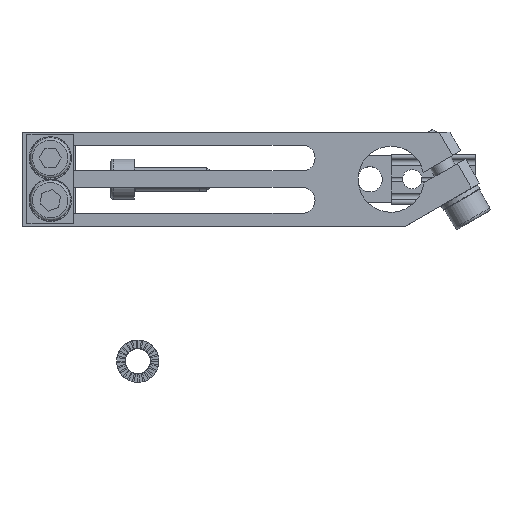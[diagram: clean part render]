
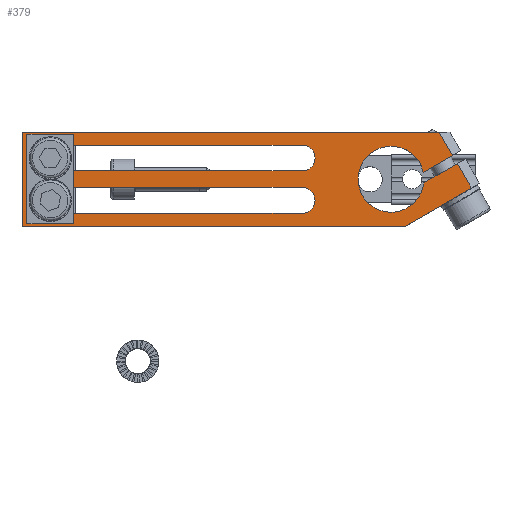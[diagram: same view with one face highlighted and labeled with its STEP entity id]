
A CAD part, top view. The second image highlights one B-rep face of the part: STEP entity #379.
In plain terms, the highlighted planar face has unit normal (0, 0, 1).
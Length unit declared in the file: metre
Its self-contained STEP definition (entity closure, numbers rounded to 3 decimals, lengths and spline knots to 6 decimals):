
#379 = ADVANCED_FACE( '', ( #786, #787, #788 ), #789, .F. );
#786 = FACE_BOUND( '', #1432, .T. );
#787 = FACE_BOUND( '', #1433, .T. );
#788 = FACE_OUTER_BOUND( '', #1434, .T. );
#789 = PLANE( '', #1435 );
#1432 = EDGE_LOOP( '', ( #2142, #2143, #2144, #2145 ) );
#1433 = EDGE_LOOP( '', ( #2146, #2147, #2148, #2149 ) );
#1434 = EDGE_LOOP( '', ( #2150, #2151, #2152, #2153, #2154, #2155, #2156, #2157, #2158 ) );
#1435 = AXIS2_PLACEMENT_3D( '', #2159, #2160, #2161 );
#2142 = ORIENTED_EDGE( '', *, *, #4640, .F. );
#2143 = ORIENTED_EDGE( '', *, *, #4641, .F. );
#2144 = ORIENTED_EDGE( '', *, *, #4642, .F. );
#2145 = ORIENTED_EDGE( '', *, *, #4643, .F. );
#2146 = ORIENTED_EDGE( '', *, *, #4644, .F. );
#2147 = ORIENTED_EDGE( '', *, *, #4645, .F. );
#2148 = ORIENTED_EDGE( '', *, *, #4646, .F. );
#2149 = ORIENTED_EDGE( '', *, *, #4647, .F. );
#2150 = ORIENTED_EDGE( '', *, *, #4648, .F. );
#2151 = ORIENTED_EDGE( '', *, *, #4649, .T. );
#2152 = ORIENTED_EDGE( '', *, *, #4650, .F. );
#2153 = ORIENTED_EDGE( '', *, *, #4628, .F. );
#2154 = ORIENTED_EDGE( '', *, *, #4611, .F. );
#2155 = ORIENTED_EDGE( '', *, *, #4651, .T. );
#2156 = ORIENTED_EDGE( '', *, *, #4639, .T. );
#2157 = ORIENTED_EDGE( '', *, *, #4634, .F. );
#2158 = ORIENTED_EDGE( '', *, *, #4652, .F. );
#2159 = CARTESIAN_POINT( '', ( -0.0784, 0.01, 0.01 ) );
#2160 = DIRECTION( '', ( 0., 0., -1. ) );
#2161 = DIRECTION( '', ( -1., 0., 0. ) );
#4611 = EDGE_CURVE( '', #5449, #5451, #5452, .T. );
#4628 = EDGE_CURVE( '', #5451, #5483, #5484, .T. );
#4634 = EDGE_CURVE( '', #5493, #5494, #5495, .T. );
#4639 = EDGE_CURVE( '', #5500, #5494, #5502, .T. );
#4640 = EDGE_CURVE( '', #5503, #5504, #5505, .T. );
#4641 = EDGE_CURVE( '', #5506, #5503, #5507, .T. );
#4642 = EDGE_CURVE( '', #5508, #5506, #5509, .T. );
#4643 = EDGE_CURVE( '', #5504, #5508, #5510, .T. );
#4644 = EDGE_CURVE( '', #5511, #5512, #5513, .T. );
#4645 = EDGE_CURVE( '', #5514, #5511, #5515, .T. );
#4646 = EDGE_CURVE( '', #5516, #5514, #5517, .T. );
#4647 = EDGE_CURVE( '', #5512, #5516, #5518, .T. );
#4648 = EDGE_CURVE( '', #5519, #5520, #5521, .T. );
#4649 = EDGE_CURVE( '', #5519, #5522, #5523, .T. );
#4650 = EDGE_CURVE( '', #5483, #5522, #5524, .T. );
#4651 = EDGE_CURVE( '', #5449, #5500, #5525, .T. );
#4652 = EDGE_CURVE( '', #5520, #5493, #5526, .F. );
#5449 = VERTEX_POINT( '', #6786 );
#5451 = VERTEX_POINT( '', #6789 );
#5452 = LINE( '', #6790, #6791 );
#5483 = VERTEX_POINT( '', #6834 );
#5484 = LINE( '', #6835, #6836 );
#5493 = VERTEX_POINT( '', #6849 );
#5494 = VERTEX_POINT( '', #6850 );
#5495 = LINE( '', #6851, #6852 );
#5500 = VERTEX_POINT( '', #6860 );
#5502 = LINE( '', #6863, #6864 );
#5503 = VERTEX_POINT( '', #6865 );
#5504 = VERTEX_POINT( '', #6866 );
#5505 = LINE( '', #6867, #6868 );
#5506 = VERTEX_POINT( '', #6869 );
#5507 = CIRCLE( '', #6870, 0.00275 );
#5508 = VERTEX_POINT( '', #6871 );
#5509 = LINE( '', #6872, #6873 );
#5510 = CIRCLE( '', #6874, 0.00275 );
#5511 = VERTEX_POINT( '', #6875 );
#5512 = VERTEX_POINT( '', #6876 );
#5513 = LINE( '', #6877, #6878 );
#5514 = VERTEX_POINT( '', #6879 );
#5515 = CIRCLE( '', #6880, 0.00275 );
#5516 = VERTEX_POINT( '', #6881 );
#5517 = LINE( '', #6882, #6883 );
#5518 = CIRCLE( '', #6884, 0.00275 );
#5519 = VERTEX_POINT( '', #6885 );
#5520 = VERTEX_POINT( '', #6886 );
#5521 = LINE( '', #6887, #6888 );
#5522 = VERTEX_POINT( '', #6889 );
#5523 = LINE( '', #6890, #6891 );
#5524 = LINE( '', #6892, #6893 );
#5525 = LINE( '', #6894, #6895 );
#5526 = CIRCLE( '', #6896, 0.007 );
#6786 = CARTESIAN_POINT( '', ( 0.003, -0.01, 0.01 ) );
#6789 = CARTESIAN_POINT( '', ( -0.0784, -0.01, 0.01 ) );
#6790 = CARTESIAN_POINT( '', ( 0.0188, -0.01, 0.01 ) );
#6791 = VECTOR( '', #8726, 1. );
#6834 = CARTESIAN_POINT( '', ( -0.0784, 0.01, 0.01 ) );
#6835 = CARTESIAN_POINT( '', ( -0.0784, -0.01, 0.01 ) );
#6836 = VECTOR( '', #8751, 1. );
#6849 = CARTESIAN_POINT( '', ( 0.006955, -0.000788, 0.01 ) );
#6850 = CARTESIAN_POINT( '', ( 0.014068, 0.003318, 0.01 ) );
#6851 = CARTESIAN_POINT( '', ( 0.00281, -0.003182, 0.01 ) );
#6852 = VECTOR( '', #8759, 1. );
#6860 = CARTESIAN_POINT( '', ( 0.017068, -0.001878, 0.01 ) );
#6863 = CARTESIAN_POINT( '', ( -0.011942, 0.048369, 0.01 ) );
#6864 = VECTOR( '', #8764, 1. );
#6865 = CARTESIAN_POINT( '', ( -0.0189, 0.00725, 0.01 ) );
#6866 = CARTESIAN_POINT( '', ( -0.0724, 0.00725, 0.01 ) );
#6867 = CARTESIAN_POINT( '', ( -0.0189, 0.00725, 0.01 ) );
#6868 = VECTOR( '', #8765, 1. );
#6869 = CARTESIAN_POINT( '', ( -0.0189, 0.00175, 0.01 ) );
#6870 = AXIS2_PLACEMENT_3D( '', #8766, #8767, #8768 );
#6871 = CARTESIAN_POINT( '', ( -0.0724, 0.00175, 0.01 ) );
#6872 = CARTESIAN_POINT( '', ( -0.0189, 0.00175, 0.01 ) );
#6873 = VECTOR( '', #8769, 1. );
#6874 = AXIS2_PLACEMENT_3D( '', #8770, #8771, #8772 );
#6875 = CARTESIAN_POINT( '', ( -0.0189, -0.00175, 0.01 ) );
#6876 = CARTESIAN_POINT( '', ( -0.0724, -0.00175, 0.01 ) );
#6877 = CARTESIAN_POINT( '', ( -0.0189, -0.00175, 0.01 ) );
#6878 = VECTOR( '', #8773, 1. );
#6879 = CARTESIAN_POINT( '', ( -0.0189, -0.00725, 0.01 ) );
#6880 = AXIS2_PLACEMENT_3D( '', #8774, #8775, #8776 );
#6881 = CARTESIAN_POINT( '', ( -0.0724, -0.00725, 0.01 ) );
#6882 = CARTESIAN_POINT( '', ( -0.0189, -0.00725, 0.01 ) );
#6883 = VECTOR( '', #8777, 1. );
#6884 = AXIS2_PLACEMENT_3D( '', #8778, #8779, #8780 );
#6885 = CARTESIAN_POINT( '', ( 0.013068, 0.00505, 0.01 ) );
#6886 = CARTESIAN_POINT( '', ( 0.006846, 0.001458, 0.01 ) );
#6887 = CARTESIAN_POINT( '', ( 0.0148, 0.00605, 0.01 ) );
#6888 = VECTOR( '', #8781, 1. );
#6889 = CARTESIAN_POINT( '', ( 0.01021, 0.01, 0.01 ) );
#6890 = CARTESIAN_POINT( '', ( -0.011942, 0.048369, 0.01 ) );
#6891 = VECTOR( '', #8782, 1. );
#6892 = CARTESIAN_POINT( '', ( -0.0784, 0.01, 0.01 ) );
#6893 = VECTOR( '', #8783, 1. );
#6894 = CARTESIAN_POINT( '', ( -0.04939, -0.040247, 0.01 ) );
#6895 = VECTOR( '', #8784, 1. );
#6896 = AXIS2_PLACEMENT_3D( '', #8785, #8786, #8787 );
#8726 = DIRECTION( '', ( -1., 0., 0. ) );
#8751 = DIRECTION( '', ( 0., 1., 0. ) );
#8759 = DIRECTION( '', ( 0.866, 0.5, 0. ) );
#8764 = DIRECTION( '', ( -0.5, 0.866, 0. ) );
#8765 = DIRECTION( '', ( -1., 0., 0. ) );
#8766 = CARTESIAN_POINT( '', ( -0.0189, 0.0045, 0.01 ) );
#8767 = DIRECTION( '', ( 0., 0., 1. ) );
#8768 = DIRECTION( '', ( 0., -1., 0. ) );
#8769 = DIRECTION( '', ( 1., 0., 0. ) );
#8770 = CARTESIAN_POINT( '', ( -0.0724, 0.0045, 0.01 ) );
#8771 = DIRECTION( '', ( 0., 0., 1. ) );
#8772 = DIRECTION( '', ( 0., 1., 0. ) );
#8773 = DIRECTION( '', ( -1., 0., 0. ) );
#8774 = CARTESIAN_POINT( '', ( -0.0189, -0.0045, 0.01 ) );
#8775 = DIRECTION( '', ( 0., 0., 1. ) );
#8776 = DIRECTION( '', ( 0., -1., 0. ) );
#8777 = DIRECTION( '', ( 1., 0., 0. ) );
#8778 = CARTESIAN_POINT( '', ( -0.0724, -0.0045, 0.01 ) );
#8779 = DIRECTION( '', ( 0., 0., 1. ) );
#8780 = DIRECTION( '', ( 0., 1., 0. ) );
#8781 = DIRECTION( '', ( -0.866, -0.5, 0. ) );
#8782 = DIRECTION( '', ( -0.5, 0.866, 0. ) );
#8783 = DIRECTION( '', ( 1., 0., 0. ) );
#8784 = DIRECTION( '', ( 0.866, 0.5, 0. ) );
#8785 = CARTESIAN_POINT( '', ( 0., 0., 0.01 ) );
#8786 = DIRECTION( '', ( 0., 0., -1. ) );
#8787 = DIRECTION( '', ( -1., 0., 0. ) );
